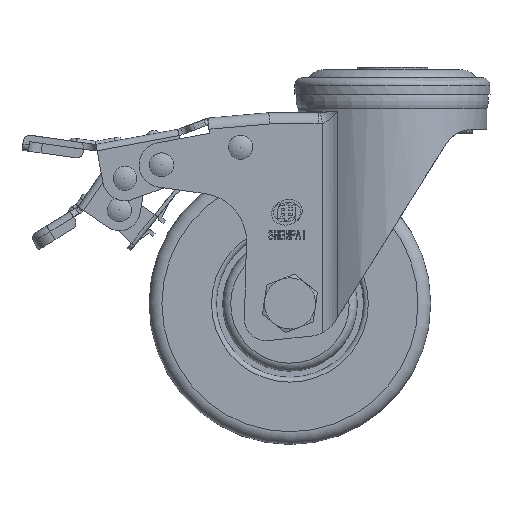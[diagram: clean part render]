
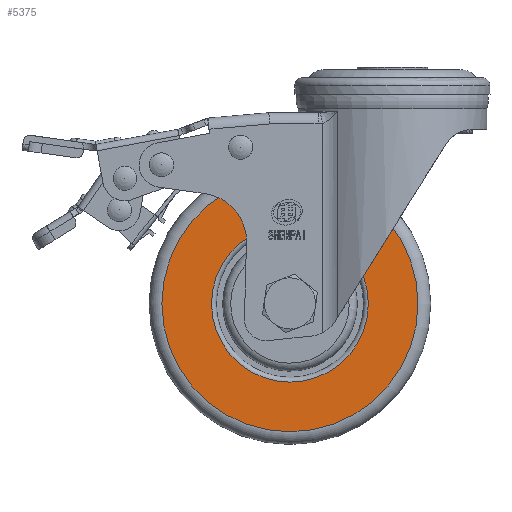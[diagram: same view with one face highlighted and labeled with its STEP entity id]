
A CAD part, front view. The second image highlights one B-rep face of the part: STEP entity #5375.
In plain terms, the highlighted planar face has unit normal (0, -1, -0.003).
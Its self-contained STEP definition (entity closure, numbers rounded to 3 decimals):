
#5375=ADVANCED_FACE('',(#6339,#6340),#5979,.F.);
#5979=PLANE('',#19643);
#6339=FACE_BOUND('',#7570,.T.);
#6340=FACE_BOUND('',#7571,.T.);
#7570=EDGE_LOOP('',(#12355));
#7571=EDGE_LOOP('',(#12356));
#12355=ORIENTED_EDGE('',*,*,#17091,.T.);
#12356=ORIENTED_EDGE('',*,*,#17095,.T.);
#14567=VERTEX_POINT('',#35989);
#14571=VERTEX_POINT('',#35999);
#17091=EDGE_CURVE('',#14567,#14567,#17988,.T.);
#17095=EDGE_CURVE('',#14571,#14571,#17992,.T.);
#17988=CIRCLE('',#19629,24.5);
#17992=CIRCLE('',#19635,40.);
#19629=AXIS2_PLACEMENT_3D('',#35988,#24036,#24037);
#19635=AXIS2_PLACEMENT_3D('',#35998,#24048,#24049);
#19643=AXIS2_PLACEMENT_3D('',#36009,#24064,#24065);
#24036=DIRECTION('',(0.,1.,0.003));
#24037=DIRECTION('',(0.,-0.003,1.));
#24048=DIRECTION('',(0.,-1.,-0.003));
#24049=DIRECTION('',(0.,0.003,-1.));
#24064=DIRECTION('',(0.,1.,0.003));
#24065=DIRECTION('',(0.,-0.003,1.));
#35988=CARTESIAN_POINT('',(-32.,-15.27,-73.788));
#35989=CARTESIAN_POINT('',(-32.,-15.352,-49.288));
#35998=CARTESIAN_POINT('',(-32.,-15.27,-73.788));
#35999=CARTESIAN_POINT('',(-32.,-15.135,-113.787));
#36009=CARTESIAN_POINT('',(-55.,-15.27,-73.788));
